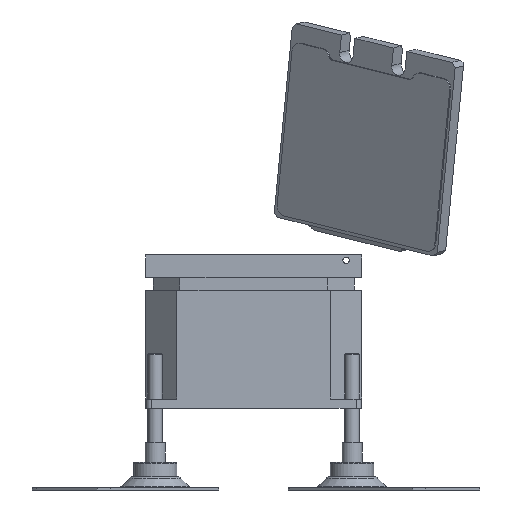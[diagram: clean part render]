
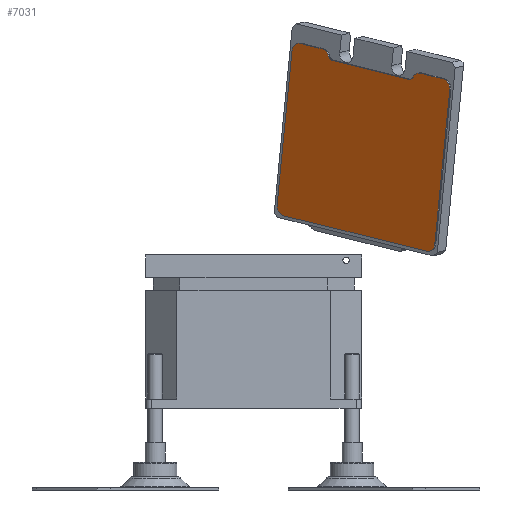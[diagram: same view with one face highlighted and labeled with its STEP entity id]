
A CAD part, left-side view. The second image highlights one B-rep face of the part: STEP entity #7031.
In plain terms, the highlighted planar face has unit normal (-0.815, 0.563, -0.134) as drawn and (0, 0, 1) by its records, which use the part's own axes.
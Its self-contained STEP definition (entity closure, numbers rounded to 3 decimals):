
#457=CIRCLE('',#7723,5.);
#466=CIRCLE('',#7735,5.);
#467=CIRCLE('',#7737,3.);
#468=CIRCLE('',#7739,5.);
#469=CIRCLE('',#7741,5.);
#470=CIRCLE('',#7744,5.);
#471=CIRCLE('',#7746,3.);
#472=CIRCLE('',#7748,5.);
#926=FACE_OUTER_BOUND('',#1356,.T.);
#1356=EDGE_LOOP('',(#5783,#5784,#5785,#5786,#5787,#5788,#5789,#5790,#5791,
#5792,#5793,#5794,#5795,#5796));
#1972=LINE('',#11573,#2632);
#1980=LINE('',#11596,#2640);
#1986=LINE('',#11614,#2646);
#1987=LINE('',#11616,#2647);
#1988=LINE('',#11618,#2648);
#1989=LINE('',#11620,#2649);
#2632=VECTOR('',#9211,10.);
#2640=VECTOR('',#9237,10.);
#2646=VECTOR('',#9257,10.);
#2647=VECTOR('',#9260,10.);
#2648=VECTOR('',#9263,10.);
#2649=VECTOR('',#9266,10.);
#3240=VERTEX_POINT('',#11537);
#3241=VERTEX_POINT('',#11538);
#3256=VERTEX_POINT('',#11572);
#3257=VERTEX_POINT('',#11576);
#3258=VERTEX_POINT('',#11580);
#3259=VERTEX_POINT('',#11582);
#3260=VERTEX_POINT('',#11586);
#3261=VERTEX_POINT('',#11590);
#3262=VERTEX_POINT('',#11591);
#3263=VERTEX_POINT('',#11598);
#3264=VERTEX_POINT('',#11600);
#3265=VERTEX_POINT('',#11604);
#3266=VERTEX_POINT('',#11608);
#3267=VERTEX_POINT('',#11609);
#4105=EDGE_CURVE('',#3240,#3241,#457,.T.);
#4122=EDGE_CURVE('',#3256,#3241,#1972,.T.);
#4124=EDGE_CURVE('',#3256,#3257,#466,.T.);
#4127=EDGE_CURVE('',#3258,#3259,#467,.T.);
#4130=EDGE_CURVE('',#3260,#3258,#468,.T.);
#4131=EDGE_CURVE('',#3261,#3262,#469,.T.);
#4134=EDGE_CURVE('',#3260,#3262,#1980,.T.);
#4136=EDGE_CURVE('',#3263,#3264,#470,.T.);
#4139=EDGE_CURVE('',#3265,#3263,#471,.T.);
#4140=EDGE_CURVE('',#3266,#3267,#472,.T.);
#4143=EDGE_CURVE('',#3240,#3267,#1986,.T.);
#4144=EDGE_CURVE('',#3265,#3259,#1987,.T.);
#4145=EDGE_CURVE('',#3261,#3257,#1988,.T.);
#4146=EDGE_CURVE('',#3266,#3264,#1989,.T.);
#5783=ORIENTED_EDGE('',*,*,#4105,.F.);
#5784=ORIENTED_EDGE('',*,*,#4143,.T.);
#5785=ORIENTED_EDGE('',*,*,#4140,.F.);
#5786=ORIENTED_EDGE('',*,*,#4146,.T.);
#5787=ORIENTED_EDGE('',*,*,#4136,.F.);
#5788=ORIENTED_EDGE('',*,*,#4139,.F.);
#5789=ORIENTED_EDGE('',*,*,#4144,.T.);
#5790=ORIENTED_EDGE('',*,*,#4127,.F.);
#5791=ORIENTED_EDGE('',*,*,#4130,.F.);
#5792=ORIENTED_EDGE('',*,*,#4134,.T.);
#5793=ORIENTED_EDGE('',*,*,#4131,.F.);
#5794=ORIENTED_EDGE('',*,*,#4145,.T.);
#5795=ORIENTED_EDGE('',*,*,#4124,.F.);
#5796=ORIENTED_EDGE('',*,*,#4122,.T.);
#6709=PLANE('',#7753);
#7031=ADVANCED_FACE('',(#926),#6709,.T.);
#7723=AXIS2_PLACEMENT_3D('',#11539,#9181,#9182);
#7735=AXIS2_PLACEMENT_3D('',#11577,#9215,#9216);
#7737=AXIS2_PLACEMENT_3D('',#11583,#9221,#9222);
#7739=AXIS2_PLACEMENT_3D('',#11588,#9227,#9228);
#7741=AXIS2_PLACEMENT_3D('',#11592,#9231,#9232);
#7744=AXIS2_PLACEMENT_3D('',#11601,#9241,#9242);
#7746=AXIS2_PLACEMENT_3D('',#11606,#9247,#9248);
#7748=AXIS2_PLACEMENT_3D('',#11610,#9251,#9252);
#7753=AXIS2_PLACEMENT_3D('',#11621,#9267,#9268);
#9181=DIRECTION('center_axis',(0.,0.,-1.));
#9182=DIRECTION('ref_axis',(-0.707,0.707,0.));
#9211=DIRECTION('',(-1.,0.,0.));
#9215=DIRECTION('center_axis',(0.,0.,-1.));
#9216=DIRECTION('ref_axis',(0.707,0.707,0.));
#9221=DIRECTION('center_axis',(0.,0.,1.));
#9222=DIRECTION('ref_axis',(0.559,0.829,0.));
#9227=DIRECTION('center_axis',(0.,0.,-1.));
#9228=DIRECTION('ref_axis',(-0.707,-0.707,0.));
#9231=DIRECTION('center_axis',(0.,0.,-1.));
#9232=DIRECTION('ref_axis',(0.707,-0.707,0.));
#9237=DIRECTION('',(1.,0.,0.));
#9241=DIRECTION('center_axis',(0.,0.,-1.));
#9242=DIRECTION('ref_axis',(0.,1.,0.));
#9247=DIRECTION('center_axis',(0.,0.,1.));
#9248=DIRECTION('ref_axis',(-0.707,0.707,0.));
#9251=DIRECTION('center_axis',(0.,0.,-1.));
#9252=DIRECTION('ref_axis',(-0.707,-0.707,0.));
#9257=DIRECTION('',(0.,-1.,0.));
#9260=DIRECTION('',(1.,0.,0.));
#9263=DIRECTION('',(0.,1.,0.));
#9266=DIRECTION('',(1.,0.,0.));
#9267=DIRECTION('center_axis',(0.,0.,1.));
#9268=DIRECTION('ref_axis',(1.,0.,0.));
#11537=CARTESIAN_POINT('',(-53.,44.,1.));
#11538=CARTESIAN_POINT('',(-48.,49.,1.));
#11539=CARTESIAN_POINT('Origin',(-48.,44.,1.));
#11572=CARTESIAN_POINT('',(48.,49.,1.));
#11573=CARTESIAN_POINT('',(53.,49.,1.));
#11576=CARTESIAN_POINT('',(53.,44.,1.));
#11577=CARTESIAN_POINT('Origin',(48.,44.,1.));
#11580=CARTESIAN_POINT('',(28.765,-45.875,1.));
#11582=CARTESIAN_POINT('',(25.984,-44.,1.));
#11583=CARTESIAN_POINT('Origin',(25.984,-47.,1.));
#11586=CARTESIAN_POINT('',(33.4,-49.,1.));
#11588=CARTESIAN_POINT('Origin',(33.4,-44.,1.));
#11590=CARTESIAN_POINT('',(53.,-44.,1.));
#11591=CARTESIAN_POINT('',(48.,-49.,1.));
#11592=CARTESIAN_POINT('Origin',(48.,-44.,1.));
#11596=CARTESIAN_POINT('',(28.4,-49.,1.));
#11598=CARTESIAN_POINT('',(-28.181,-45.875,1.));
#11600=CARTESIAN_POINT('',(-32.816,-49.,1.));
#11601=CARTESIAN_POINT('Origin',(-32.816,-44.,1.));
#11604=CARTESIAN_POINT('',(-25.4,-44.,1.));
#11606=CARTESIAN_POINT('Origin',(-25.4,-47.,1.));
#11608=CARTESIAN_POINT('',(-48.,-49.,1.));
#11609=CARTESIAN_POINT('',(-53.,-44.,1.));
#11610=CARTESIAN_POINT('Origin',(-48.,-44.,1.));
#11614=CARTESIAN_POINT('',(-53.,49.,1.));
#11616=CARTESIAN_POINT('',(-28.4,-44.,1.));
#11618=CARTESIAN_POINT('',(53.,-49.,1.));
#11620=CARTESIAN_POINT('',(-53.,-49.,1.));
#11621=CARTESIAN_POINT('Origin',(0.,-0.433,1.));
